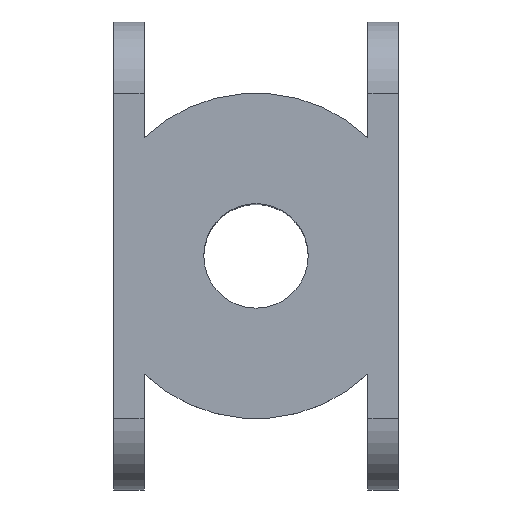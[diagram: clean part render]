
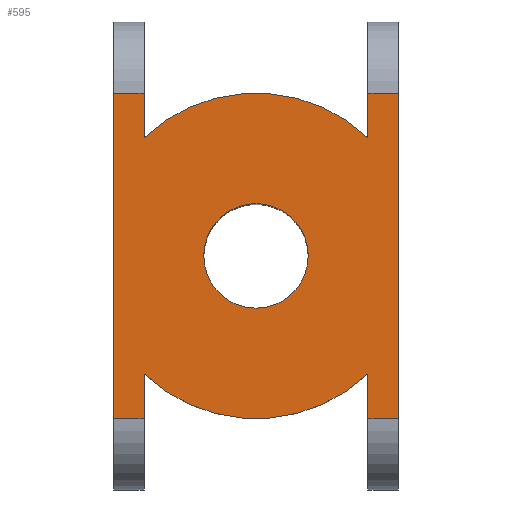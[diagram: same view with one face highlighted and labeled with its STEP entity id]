
A CAD part, top view. The second image highlights one B-rep face of the part: STEP entity #595.
In plain terms, the highlighted planar face has unit normal (0, 0, 1).
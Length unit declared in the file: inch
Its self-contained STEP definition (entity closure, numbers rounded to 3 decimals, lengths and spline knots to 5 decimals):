
#50=LINE('',#901,#106);
#53=LINE('',#915,#109);
#56=LINE('',#932,#112);
#57=LINE('',#938,#113);
#59=LINE('',#943,#115);
#63=LINE('',#950,#119);
#65=LINE('',#962,#121);
#66=LINE('',#970,#122);
#67=LINE('',#972,#123);
#68=LINE('',#975,#124);
#106=VECTOR('',#723,0.27382);
#109=VECTOR('',#738,0.27382);
#112=VECTOR('',#757,0.1875);
#113=VECTOR('',#762,0.1875);
#115=VECTOR('',#768,2.);
#119=VECTOR('',#774,0.27382);
#121=VECTOR('',#788,0.1875);
#122=VECTOR('',#799,0.1875);
#123=VECTOR('',#802,2.);
#124=VECTOR('',#805,0.27382);
#147=PLANE('',#652);
#163=FACE_BOUND('',#243,.T.);
#195=FACE_OUTER_BOUND('',#242,.T.);
#242=EDGE_LOOP('',(#535,#536,#537,#538,#539,#540,#541,#542,#543,#544,#545,
#546));
#243=EDGE_LOOP('',(#547));
#246=CIRCLE('',#601,0.321);
#264=CIRCLE('',#648,1.);
#266=CIRCLE('',#651,1.);
#268=VERTEX_POINT('',#826);
#292=VERTEX_POINT('',#898);
#293=VERTEX_POINT('',#900);
#297=VERTEX_POINT('',#912);
#298=VERTEX_POINT('',#914);
#304=VERTEX_POINT('',#930);
#305=VERTEX_POINT('',#934);
#307=VERTEX_POINT('',#937);
#310=VERTEX_POINT('',#948);
#314=VERTEX_POINT('',#961);
#315=VERTEX_POINT('',#966);
#316=VERTEX_POINT('',#968);
#317=VERTEX_POINT('',#974);
#320=EDGE_CURVE('',#268,#268,#246,.T.);
#356=EDGE_CURVE('',#293,#292,#50,.T.);
#363=EDGE_CURVE('',#297,#298,#53,.T.);
#371=EDGE_CURVE('',#297,#304,#56,.T.);
#373=EDGE_CURVE('',#305,#307,#57,.T.);
#376=EDGE_CURVE('',#304,#307,#59,.T.);
#380=EDGE_CURVE('',#310,#305,#63,.T.);
#385=EDGE_CURVE('',#293,#314,#65,.T.);
#389=EDGE_CURVE('',#315,#316,#66,.T.);
#390=EDGE_CURVE('',#314,#316,#67,.T.);
#391=EDGE_CURVE('',#317,#315,#68,.T.);
#394=EDGE_CURVE('',#310,#317,#264,.T.);
#396=EDGE_CURVE('',#292,#298,#266,.T.);
#535=ORIENTED_EDGE('',*,*,#394,.T.);
#536=ORIENTED_EDGE('',*,*,#391,.T.);
#537=ORIENTED_EDGE('',*,*,#389,.T.);
#538=ORIENTED_EDGE('',*,*,#390,.F.);
#539=ORIENTED_EDGE('',*,*,#385,.F.);
#540=ORIENTED_EDGE('',*,*,#356,.T.);
#541=ORIENTED_EDGE('',*,*,#396,.T.);
#542=ORIENTED_EDGE('',*,*,#363,.F.);
#543=ORIENTED_EDGE('',*,*,#371,.T.);
#544=ORIENTED_EDGE('',*,*,#376,.T.);
#545=ORIENTED_EDGE('',*,*,#373,.F.);
#546=ORIENTED_EDGE('',*,*,#380,.F.);
#547=ORIENTED_EDGE('',*,*,#320,.T.);
#595=ADVANCED_FACE('',(#195,#163),#147,.T.);
#601=AXIS2_PLACEMENT_3D('',#827,#660,#661);
#648=AXIS2_PLACEMENT_3D('',#980,#810,#811);
#651=AXIS2_PLACEMENT_3D('',#983,#816,#817);
#652=AXIS2_PLACEMENT_3D('',#984,#818,#819);
#660=DIRECTION('center_axis',(0.,0.,-1.));
#661=DIRECTION('ref_axis',(1.,0.,0.));
#723=DIRECTION('',(0.,-1.,0.));
#738=DIRECTION('',(0.,-1.,0.));
#757=DIRECTION('',(-1.,0.,0.));
#762=DIRECTION('',(-1.,0.,0.));
#768=DIRECTION('',(0.,-1.,0.));
#774=DIRECTION('',(0.,-1.,0.));
#788=DIRECTION('',(1.,0.,0.));
#799=DIRECTION('',(1.,0.,0.));
#802=DIRECTION('',(0.,-1.,0.));
#805=DIRECTION('',(0.,-1.,0.));
#810=DIRECTION('center_axis',(0.,0.,1.));
#811=DIRECTION('ref_axis',(-0.688,-0.726,0.));
#816=DIRECTION('center_axis',(0.,0.,1.));
#817=DIRECTION('ref_axis',(0.688,0.726,0.));
#818=DIRECTION('center_axis',(0.,0.,1.));
#819=DIRECTION('ref_axis',(1.,0.,0.));
#826=CARTESIAN_POINT('',(0.321,0.,0.));
#827=CARTESIAN_POINT('Origin',(0.,0.,0.));
#898=CARTESIAN_POINT('',(0.6875,0.72618,0.));
#900=CARTESIAN_POINT('',(0.6875,1.,0.));
#901=CARTESIAN_POINT('',(0.6875,-0.72618,0.));
#912=CARTESIAN_POINT('',(-0.6875,1.,0.));
#914=CARTESIAN_POINT('',(-0.6875,0.72618,0.));
#915=CARTESIAN_POINT('',(-0.6875,-0.72618,0.));
#930=CARTESIAN_POINT('',(-0.875,1.,0.));
#932=CARTESIAN_POINT('',(-0.6875,1.,0.));
#934=CARTESIAN_POINT('',(-0.6875,-1.,0.));
#937=CARTESIAN_POINT('',(-0.875,-1.,0.));
#938=CARTESIAN_POINT('',(-0.6875,-1.,0.));
#943=CARTESIAN_POINT('',(-0.875,1.,0.));
#948=CARTESIAN_POINT('',(-0.6875,-0.72618,0.));
#950=CARTESIAN_POINT('',(-0.6875,-0.72618,0.));
#961=CARTESIAN_POINT('',(0.875,1.,0.));
#962=CARTESIAN_POINT('',(0.6875,1.,0.));
#966=CARTESIAN_POINT('',(0.6875,-1.,0.));
#968=CARTESIAN_POINT('',(0.875,-1.,0.));
#970=CARTESIAN_POINT('',(0.6875,-1.,0.));
#972=CARTESIAN_POINT('',(0.875,1.,0.));
#974=CARTESIAN_POINT('',(0.6875,-0.72618,0.));
#975=CARTESIAN_POINT('',(0.6875,-0.72618,0.));
#980=CARTESIAN_POINT('Origin',(0.,0.,0.));
#983=CARTESIAN_POINT('Origin',(0.,0.,0.));
#984=CARTESIAN_POINT('Origin',(0.,0.,0.));
